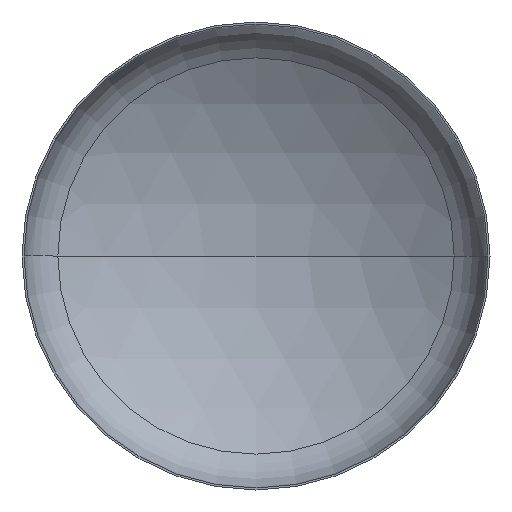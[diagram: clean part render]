
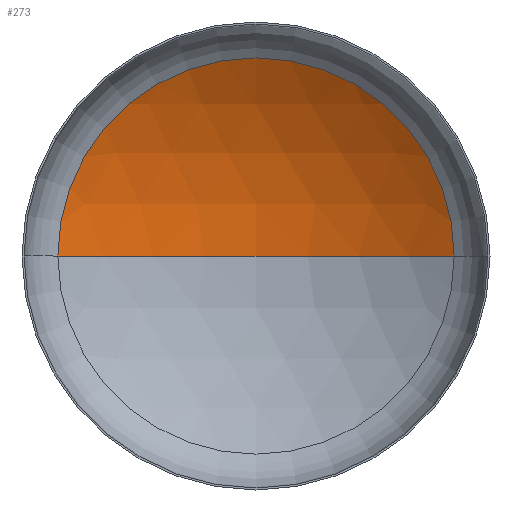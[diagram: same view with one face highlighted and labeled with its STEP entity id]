
A CAD part, front view. The second image highlights one B-rep face of the part: STEP entity #273.
In plain terms, the highlighted spherical face has radius 1120 mm.
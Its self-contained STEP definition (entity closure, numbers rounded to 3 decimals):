
#2 = AXIS2_PLACEMENT_3D ( 'NONE', #326, #186, #349 ) ;
#6 = AXIS2_PLACEMENT_3D ( 'NONE', #403, #283, #88 ) ;
#23 = ORIENTED_EDGE ( 'NONE', *, *, #350, .T. ) ;
#29 = VERTEX_POINT ( 'NONE', #126 ) ;
#31 = VERTEX_POINT ( 'NONE', #317 ) ;
#37 = AXIS2_PLACEMENT_3D ( 'NONE', #233, #203, #177 ) ;
#38 = ORIENTED_EDGE ( 'NONE', *, *, #355, .F. ) ;
#39 = DIRECTION ( 'NONE',  ( 1., 0., 0. ) ) ;
#57 = AXIS2_PLACEMENT_3D ( 'NONE', #224, #379, #39 ) ;
#61 = VERTEX_POINT ( 'NONE', #297 ) ;
#85 = EDGE_LOOP ( 'NONE', ( #38, #23, #364 ) ) ;
#88 = DIRECTION ( 'NONE',  ( -1., 0., 0. ) ) ;
#126 = CARTESIAN_POINT ( 'NONE',  ( -592.796, 202.416, 0. ) ) ;
#162 = EDGE_CURVE ( 'NONE', #61, #29, #409, .T. ) ;
#173 = SPHERICAL_SURFACE ( 'NONE', #37, 1120. ) ;
#177 = DIRECTION ( 'NONE',  ( -1., 0., 0. ) ) ;
#186 = DIRECTION ( 'NONE',  ( 0., 0., 1. ) ) ;
#203 = DIRECTION ( 'NONE',  ( 0., 0., -1. ) ) ;
#224 = CARTESIAN_POINT ( 'NONE',  ( 0., 202.416, 0. ) ) ;
#233 = CARTESIAN_POINT ( 'NONE',  ( 0., -747.844, 0. ) ) ;
#273 = ADVANCED_FACE ( 'NONE', ( #344 ), #173, .F. ) ;
#279 = CIRCLE ( 'NONE', #2, 1120. ) ;
#283 = DIRECTION ( 'NONE',  ( 0., 0., -1. ) ) ;
#297 = CARTESIAN_POINT ( 'NONE',  ( 592.796, 202.416, 0. ) ) ;
#317 = CARTESIAN_POINT ( 'NONE',  ( 0., 372.156, 0. ) ) ;
#326 = CARTESIAN_POINT ( 'NONE',  ( 0., -747.844, 0. ) ) ;
#344 = FACE_OUTER_BOUND ( 'NONE', #85, .T. ) ;
#349 = DIRECTION ( 'NONE',  ( 1., 0., 0. ) ) ;
#350 = EDGE_CURVE ( 'NONE', #31, #61, #385, .T. ) ;
#355 = EDGE_CURVE ( 'NONE', #31, #29, #279, .T. ) ;
#364 = ORIENTED_EDGE ( 'NONE', *, *, #162, .T. ) ;
#379 = DIRECTION ( 'NONE',  ( 0., -1., 0. ) ) ;
#385 = CIRCLE ( 'NONE', #6, 1120. ) ;
#403 = CARTESIAN_POINT ( 'NONE',  ( 0., -747.844, 0. ) ) ;
#409 = CIRCLE ( 'NONE', #57, 592.796 ) ;
